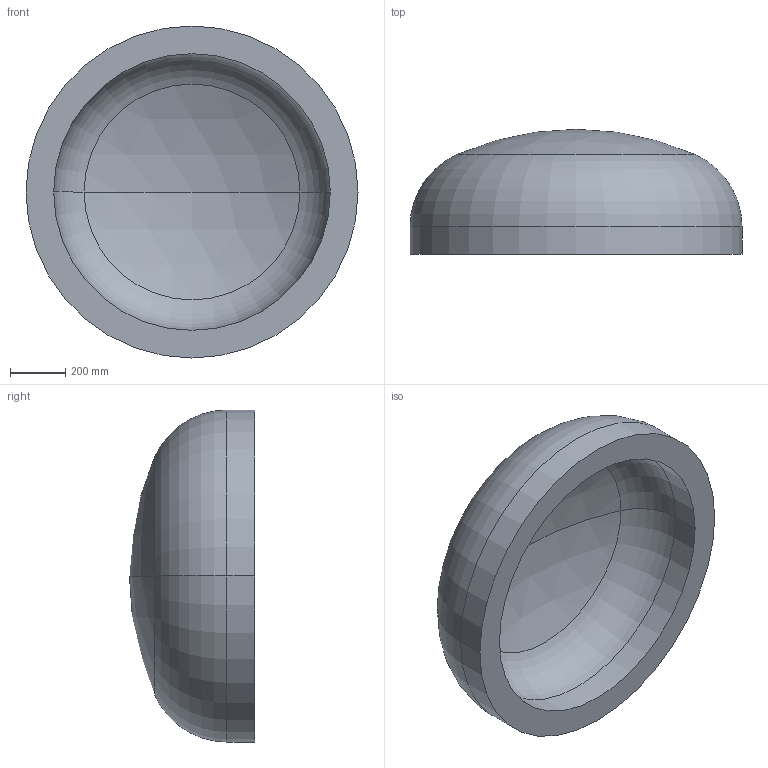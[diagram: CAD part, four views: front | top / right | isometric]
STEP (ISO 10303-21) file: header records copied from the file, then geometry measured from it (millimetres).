
FILE_DESCRIPTION (( 'STEP AP203' ), '1' );
FILE_NAME ('DIN 28013 Korbbogenform_-_Boden DIN 28013 - 1200 x 100 - I - s=100.step', '2016-07-01T09:37:44', ( '' ), ( '' ), 'SwSTEP 2.0', 'SolidWorks 2013', '' );
FILE_SCHEMA (( 'CONFIG_CONTROL_DESIGN' ));
Length unit declared in the file: millimetre
Products named in the file (1): DIN 28013 Korbbogenform_-_Boden DIN 28013 - 1200 x 100 - I - s=100
Bounding box: 1200 x 451.9 x 1200 mm (x, y, z)
Volume: 175707694.5 mm3; surface area: 3880672.4 mm2
Topology: 1 solids, 1 shells, 13 faces, 24 edges, 14 vertices
Faces by surface type: torus 4, cylinder 4, sphere 4, plane 1
Entity records: 407 total; most frequent: DIRECTION 72, CARTESIAN_POINT 52, ORIENTED_EDGE 48, AXIS2_PLACEMENT_3D 34, EDGE_CURVE 24, CIRCLE 20, VERTEX_POINT 14, EDGE_LOOP 14
